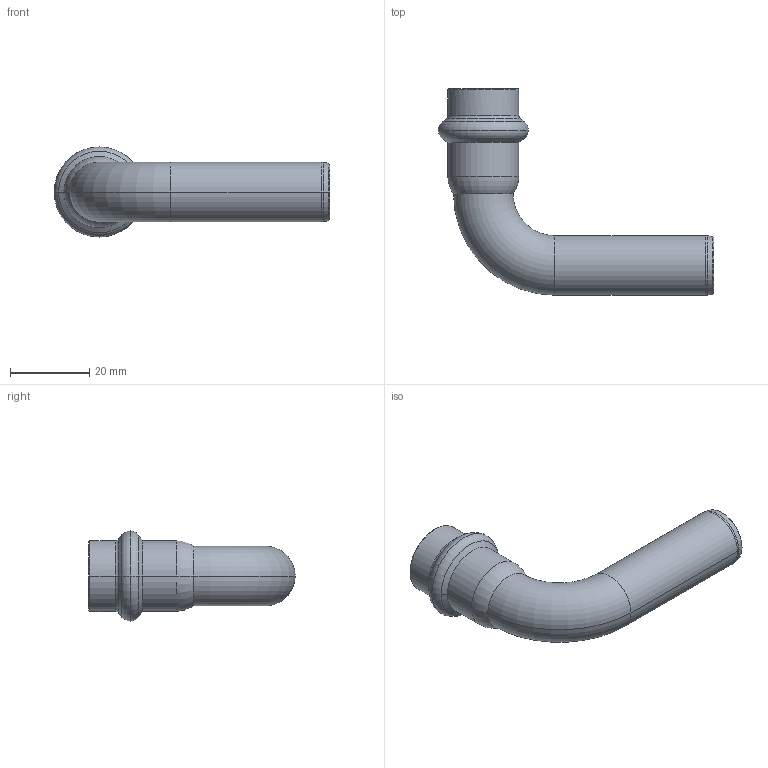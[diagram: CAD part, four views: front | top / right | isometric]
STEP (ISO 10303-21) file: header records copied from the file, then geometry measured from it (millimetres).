
FILE_DESCRIPTION(('CoCreate Modeling STEP Export'),'2;1');
FILE_NAME('8001VW15.stp','2013-01-29T13:55:21',(''),(''),'CoCreate Modeling STEP processor for AP214 (Solid Model)','CoCreate Modeling 17.00A 17-Jun-2010 (C) Parametric Technology GmbH','');
FILE_SCHEMA(('AUTOMOTIVE_DESIGN { 1 0 10303 214 1 1 1 1 }'));
Length unit declared in the file: millimetre
Products named in the file (2): 8001VW15
Assembly tree (1 placements, depth 2):
  8001VW15
    8001VW15
Bounding box: 69.35 x 51.93 x 22.69 mm (x, y, z)
Volume: 6303.7 mm3; surface area: 9026.6 mm2
Topology: 1 solids, 1 shells, 58 faces, 124 edges, 72 vertices
Faces by surface type: torus 20, cylinder 16, cone 16, plane 6
Entity records: 1308 total; most frequent: ORIENTED_EDGE 248, DIRECTION 206, CARTESIAN_POINT 191, EDGE_CURVE 124, AXIS2_PLACEMENT_3D 87, VERTEX_POINT 72, EDGE_LOOP 64, FACE_OUTER_BOUND 58
